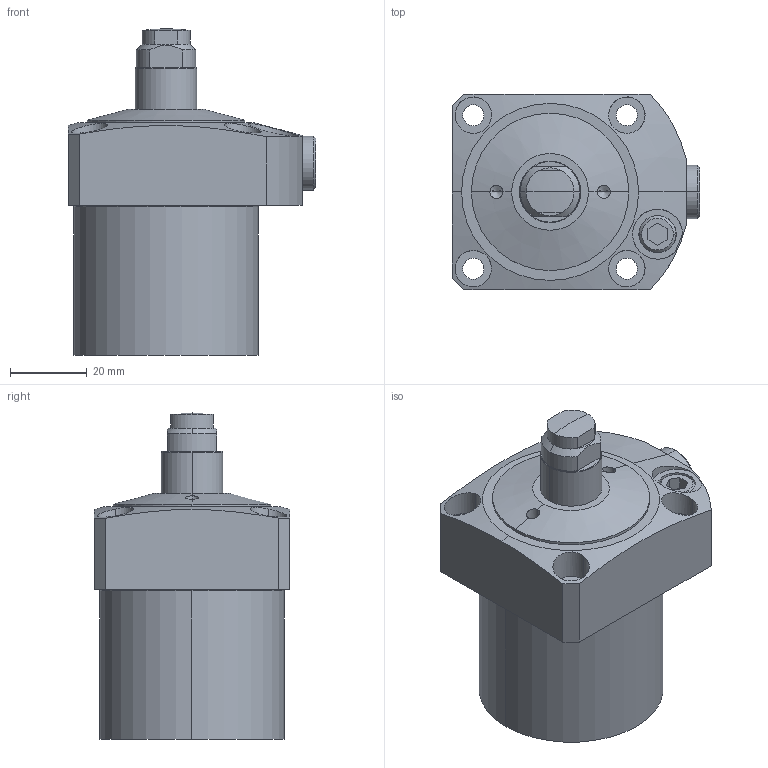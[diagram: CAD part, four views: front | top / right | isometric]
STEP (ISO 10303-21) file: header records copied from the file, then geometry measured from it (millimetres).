
FILE_DESCRIPTION(/* description */ (''),/* implementation_level */ '2;1');
FILE_NAME(/* name */ 'KFSS48.stp',/* time_stamp */ '2022-11-17T07:39:20+08:00',/* author */ (''),/* organization */ (''),/* preprocessor_version */ 'ST-DEVELOPER v16.7',/* originating_system */ 'SIEMENS PLM Software NX 12.0',/* authorisation */ '');
FILE_SCHEMA (('AP203_CONFIGURATION_CONTROLLED_3D_DESIGN_OF_MECHANICAL_PARTS_AND_ASSEMBLIES_MIM_LF { 1 0 10303 403 2 1 2}'));
Length unit declared in the file: millimetre
Products named in the file (5): KFSS48-04; KFSS48-03; KFSS48-01; KFSS48-02; LC0482-Cx-E_step
Assembly tree (4 placements, depth 2):
  LC0482-Cx-E_step
    KFSS48-02
    KFSS48-01
    KFSS48-03
    KFSS48-04
Bounding box: 64.5 x 51 x 85 mm (x, y, z)
Volume: 135359.2 mm3; surface area: 20471.7 mm2
Topology: 4 solids, 4 shells, 118 faces, 265 edges, 166 vertices
Faces by surface type: cylinder 48, plane 46, cone 20, sphere 2, torus 2
Entity records: 4041 total; most frequent: CARTESIAN_POINT 796, DIRECTION 595, ORIENTED_EDGE 522, EDGE_CURVE 261, AXIS2_PLACEMENT_3D 235, VERTEX_POINT 166, EDGE_LOOP 141, LINE 125
